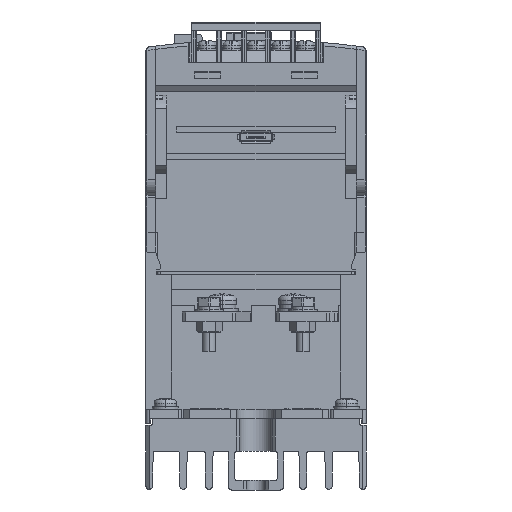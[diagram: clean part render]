
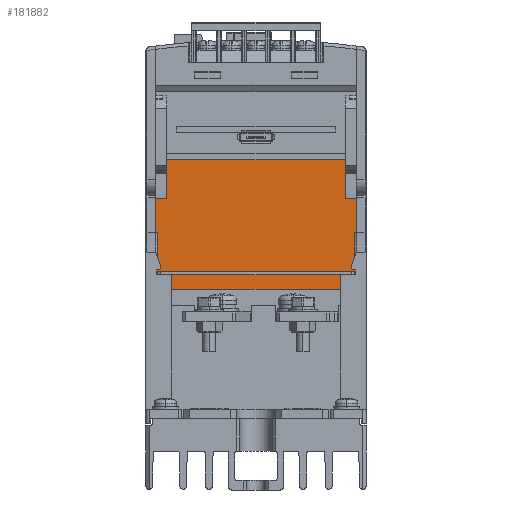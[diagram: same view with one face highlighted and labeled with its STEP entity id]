
A CAD part, front view. The second image highlights one B-rep face of the part: STEP entity #181882.
In plain terms, the highlighted planar face has unit normal (0, -1, 0).
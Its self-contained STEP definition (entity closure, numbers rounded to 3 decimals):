
#1100 = EDGE_CURVE ( 'NONE', #64205, #85463, #153746, .T. ) ;
#4416 = DIRECTION ( 'NONE',  ( 1., 0., 0. ) ) ;
#10332 = EDGE_CURVE ( 'NONE', #171778, #19442, #31456, .T. ) ;
#14701 = DIRECTION ( 'NONE',  ( 0., 0., 1. ) ) ;
#14812 = EDGE_LOOP ( 'NONE', ( #159988, #113425, #41339, #26146, #35616, #104012, #74925, #64443, #39762, #37225 ) ) ;
#18548 = DIRECTION ( 'NONE',  ( 1., 0., 0. ) ) ;
#19442 = VERTEX_POINT ( 'NONE', #20101 ) ;
#20101 = CARTESIAN_POINT ( 'NONE',  ( -27.5, -71.9, 90. ) ) ;
#22365 = VECTOR ( 'NONE', #14701, 1000. ) ;
#24030 = VERTEX_POINT ( 'NONE', #44018 ) ;
#25439 = VECTOR ( 'NONE', #116983, 1000. ) ;
#26146 = ORIENTED_EDGE ( 'NONE', *, *, #82575, .T. ) ;
#27594 = CARTESIAN_POINT ( 'NONE',  ( -34., -71.9, 90. ) ) ;
#27821 = CARTESIAN_POINT ( 'NONE',  ( -31., -71.9, 84.5 ) ) ;
#28215 = CARTESIAN_POINT ( 'NONE',  ( 31., -71.9, 84.5 ) ) ;
#29940 = DIRECTION ( 'NONE',  ( 0., 0., 1. ) ) ;
#30989 = VERTEX_POINT ( 'NONE', #141854 ) ;
#31456 = LINE ( 'NONE', #107097, #61810 ) ;
#32709 = EDGE_CURVE ( 'NONE', #49147, #171778, #189025, .T. ) ;
#33059 = LINE ( 'NONE', #28215, #108169 ) ;
#35616 = ORIENTED_EDGE ( 'NONE', *, *, #56412, .F. ) ;
#37225 = ORIENTED_EDGE ( 'NONE', *, *, #32709, .F. ) ;
#39568 = CARTESIAN_POINT ( 'NONE',  ( -31., -71.9, 84.5 ) ) ;
#39762 = ORIENTED_EDGE ( 'NONE', *, *, #10332, .F. ) ;
#41339 = ORIENTED_EDGE ( 'NONE', *, *, #192317, .T. ) ;
#44018 = CARTESIAN_POINT ( 'NONE',  ( 31., -71.9, 79.5 ) ) ;
#49147 = VERTEX_POINT ( 'NONE', #170409 ) ;
#53738 = LINE ( 'NONE', #27594, #147819 ) ;
#54710 = DIRECTION ( 'NONE',  ( 0., 0., -1. ) ) ;
#56412 = EDGE_CURVE ( 'NONE', #165623, #30989, #53738, .T. ) ;
#57052 = CARTESIAN_POINT ( 'NONE',  ( -27.5, -71.9, 102. ) ) ;
#57078 = EDGE_CURVE ( 'NONE', #61232, #104456, #105230, .T. ) ;
#59983 = DIRECTION ( 'NONE',  ( 0., 1., 0. ) ) ;
#61232 = VERTEX_POINT ( 'NONE', #192184 ) ;
#61810 = VECTOR ( 'NONE', #18548, 1000. ) ;
#64205 = VERTEX_POINT ( 'NONE', #131719 ) ;
#64443 = ORIENTED_EDGE ( 'NONE', *, *, #180820, .T. ) ;
#65981 = CARTESIAN_POINT ( 'NONE',  ( 31., -71.9, 62. ) ) ;
#69104 = VECTOR ( 'NONE', #54710, 1000. ) ;
#72775 = DIRECTION ( 'NONE',  ( 0., 0., 1. ) ) ;
#74925 = ORIENTED_EDGE ( 'NONE', *, *, #1100, .T. ) ;
#79074 = AXIS2_PLACEMENT_3D ( 'NONE', #118524, #59983, #29940 ) ;
#82444 = VECTOR ( 'NONE', #189643, 1000. ) ;
#82461 = VECTOR ( 'NONE', #182652, 1000. ) ;
#82575 = EDGE_CURVE ( 'NONE', #24030, #30989, #127082, .T. ) ;
#85463 = VERTEX_POINT ( 'NONE', #57052 ) ;
#96307 = CARTESIAN_POINT ( 'NONE',  ( 27.5, -71.9, 90. ) ) ;
#104012 = ORIENTED_EDGE ( 'NONE', *, *, #111818, .F. ) ;
#104456 = VERTEX_POINT ( 'NONE', #65981 ) ;
#105230 = LINE ( 'NONE', #121110, #180394 ) ;
#105425 = FACE_OUTER_BOUND ( 'NONE', #14812, .T. ) ;
#107097 = CARTESIAN_POINT ( 'NONE',  ( -34., -71.9, 90. ) ) ;
#108169 = VECTOR ( 'NONE', #72775, 1000. ) ;
#111818 = EDGE_CURVE ( 'NONE', #64205, #165623, #127702, .T. ) ;
#113425 = ORIENTED_EDGE ( 'NONE', *, *, #57078, .T. ) ;
#116467 = CARTESIAN_POINT ( 'NONE',  ( 27.5, -71.9, 102. ) ) ;
#116983 = DIRECTION ( 'NONE',  ( 0., 0., 1. ) ) ;
#117640 = LINE ( 'NONE', #160676, #82444 ) ;
#118524 = CARTESIAN_POINT ( 'NONE',  ( 57.65, -71.9, 102. ) ) ;
#119604 = CARTESIAN_POINT ( 'NONE',  ( 31., -71.9, 84.5 ) ) ;
#121110 = CARTESIAN_POINT ( 'NONE',  ( -55.088, -71.9, 62. ) ) ;
#127082 = LINE ( 'NONE', #119604, #82461 ) ;
#127702 = LINE ( 'NONE', #116467, #69104 ) ;
#127867 = VECTOR ( 'NONE', #180349, 1000. ) ;
#131719 = CARTESIAN_POINT ( 'NONE',  ( 27.5, -71.9, 102. ) ) ;
#134808 = EDGE_CURVE ( 'NONE', #61232, #49147, #171012, .T. ) ;
#134908 = PLANE ( 'NONE',  #79074 ) ;
#141198 = CARTESIAN_POINT ( 'NONE',  ( -31., -71.9, 90. ) ) ;
#141854 = CARTESIAN_POINT ( 'NONE',  ( 31., -71.9, 90. ) ) ;
#147703 = DIRECTION ( 'NONE',  ( 1., 0., 0. ) ) ;
#147819 = VECTOR ( 'NONE', #147703, 1000. ) ;
#153746 = LINE ( 'NONE', #194135, #127867 ) ;
#159988 = ORIENTED_EDGE ( 'NONE', *, *, #134808, .F. ) ;
#160676 = CARTESIAN_POINT ( 'NONE',  ( -27.5, -71.9, 102. ) ) ;
#165623 = VERTEX_POINT ( 'NONE', #96307 ) ;
#170409 = CARTESIAN_POINT ( 'NONE',  ( -31., -71.9, 79.5 ) ) ;
#171012 = LINE ( 'NONE', #39568, #25439 ) ;
#171778 = VERTEX_POINT ( 'NONE', #141198 ) ;
#180349 = DIRECTION ( 'NONE',  ( -1., 0., 0. ) ) ;
#180394 = VECTOR ( 'NONE', #4416, 1000. ) ;
#180820 = EDGE_CURVE ( 'NONE', #85463, #19442, #117640, .T. ) ;
#181882 = ADVANCED_FACE ( 'NONE', ( #105425 ), #134908, .F. ) ;
#182652 = DIRECTION ( 'NONE',  ( 0., 0., 1. ) ) ;
#189025 = LINE ( 'NONE', #27821, #22365 ) ;
#189643 = DIRECTION ( 'NONE',  ( 0., 0., -1. ) ) ;
#192184 = CARTESIAN_POINT ( 'NONE',  ( -31., -71.9, 62. ) ) ;
#192317 = EDGE_CURVE ( 'NONE', #104456, #24030, #33059, .T. ) ;
#194135 = CARTESIAN_POINT ( 'NONE',  ( 57.65, -71.9, 102. ) ) ;
